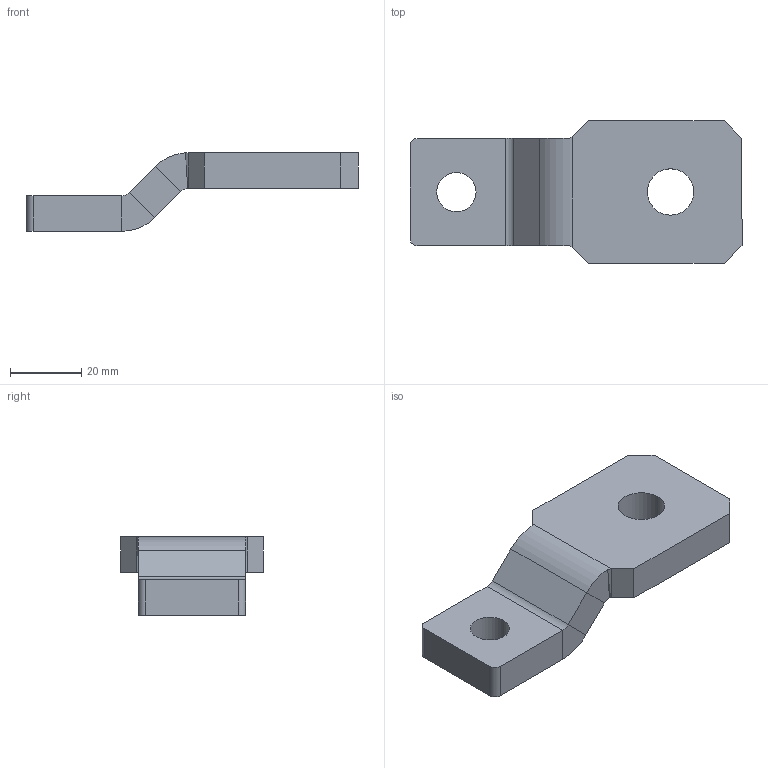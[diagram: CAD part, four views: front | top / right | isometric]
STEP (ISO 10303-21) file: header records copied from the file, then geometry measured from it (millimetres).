
FILE_DESCRIPTION (( 'STEP AP203' ), '1' );
FILE_NAME ('8LD.580.1116-3p.STEP', '2023-09-21T01:09:01', ( '' ), ( '' ), 'SwSTEP 2.0', 'SolidWorks 2018', '' );
FILE_SCHEMA (( 'CONFIG_CONTROL_DESIGN' ));
Length unit declared in the file: millimetre
Products named in the file (1): 8LD.580.1116-3p
Bounding box: 93 x 40 x 22 mm (x, y, z)
Volume: 31189.8 mm3; surface area: 9603.5 mm2
Topology: 1 solids, 1 shells, 34 faces, 80 edges, 48 vertices
Faces by surface type: plane 22, cylinder 10, bspline 2
Entity records: 1055 total; most frequent: CARTESIAN_POINT 199, ORIENTED_EDGE 160, DIRECTION 158, EDGE_CURVE 80, AXIS2_PLACEMENT_3D 53, VECTOR 52, LINE 52, VERTEX_POINT 48
